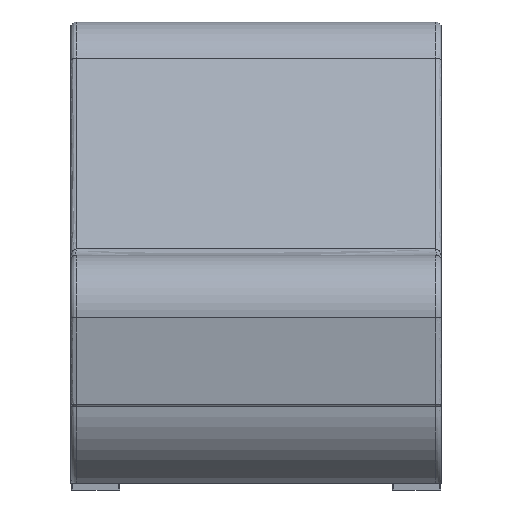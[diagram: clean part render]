
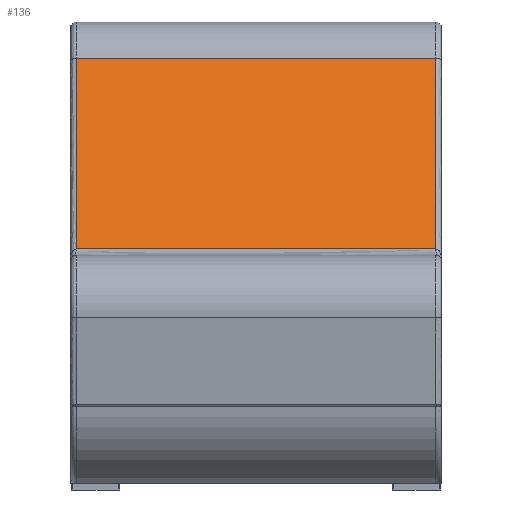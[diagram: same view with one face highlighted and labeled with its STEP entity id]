
A CAD part, front view. The second image highlights one B-rep face of the part: STEP entity #136.
In plain terms, the highlighted planar face has unit normal (0, -0.94, 0.342).
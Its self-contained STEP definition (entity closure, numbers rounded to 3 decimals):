
#136=ADVANCED_FACE('',(#223),#1354,.T.);
#223=FACE_OUTER_BOUND('',#310,.T.);
#310=EDGE_LOOP('',(#574,#575,#576,#577));
#574=ORIENTED_EDGE('',*,*,#871,.F.);
#575=ORIENTED_EDGE('',*,*,#842,.F.);
#576=ORIENTED_EDGE('',*,*,#870,.T.);
#577=ORIENTED_EDGE('',*,*,#825,.F.);
#825=EDGE_CURVE('',#1241,#1240,#1482,.T.);
#842=EDGE_CURVE('',#1256,#1257,#1488,.T.);
#870=EDGE_CURVE('',#1256,#1240,#1079,.T.);
#871=EDGE_CURVE('',#1257,#1241,#1506,.T.);
#1079=(
BOUNDED_CURVE()
B_SPLINE_CURVE(1,(#3002,#3003),.UNSPECIFIED.,.F.,.F.)
B_SPLINE_CURVE_WITH_KNOTS((2,2),(12.207,378.644),
 .UNSPECIFIED.)
CURVE()
GEOMETRIC_REPRESENTATION_ITEM()
RATIONAL_B_SPLINE_CURVE((1.,1.))
REPRESENTATION_ITEM('')
);
#1240=VERTEX_POINT('',#2580);
#1241=VERTEX_POINT('',#2581);
#1256=VERTEX_POINT('',#2596);
#1257=VERTEX_POINT('',#2597);
#1354=PLANE('',#1548);
#1482=B_SPLINE_CURVE_WITH_KNOTS('',1,(#2741,#2742),.UNSPECIFIED.,.F.,.F.,
(2,2),(10.,740.),.UNSPECIFIED.);
#1488=B_SPLINE_CURVE_WITH_KNOTS('',1,(#2798,#2799),.UNSPECIFIED.,.F.,.F.,
(2,2),(10.,740.),.UNSPECIFIED.);
#1506=B_SPLINE_CURVE_WITH_KNOTS('',1,(#3004,#3005),.UNSPECIFIED.,.F.,.F.,
(2,2),(-16658.981,-16292.544),.UNSPECIFIED.);
#1548=AXIS2_PLACEMENT_3D('',#2553,#1569,$);
#1569=DIRECTION('',(0.,-0.94,0.342));
#2553=CARTESIAN_POINT('',(660.,68.229,435.47));
#2580=CARTESIAN_POINT('',(660.,193.618,779.787));
#2581=CARTESIAN_POINT('',(10.,193.618,779.787));
#2596=CARTESIAN_POINT('',(660.,68.229,435.47));
#2597=CARTESIAN_POINT('',(10.,68.229,435.47));
#2741=CARTESIAN_POINT('',(10.,193.618,779.787));
#2742=CARTESIAN_POINT('',(660.,193.618,779.787));
#2798=CARTESIAN_POINT('',(660.,68.229,435.47));
#2799=CARTESIAN_POINT('',(10.,68.229,435.47));
#3002=CARTESIAN_POINT('',(660.,68.229,435.47));
#3003=CARTESIAN_POINT('',(660.,193.618,779.787));
#3004=CARTESIAN_POINT('',(10.,68.229,435.47));
#3005=CARTESIAN_POINT('',(10.,193.618,779.787));
